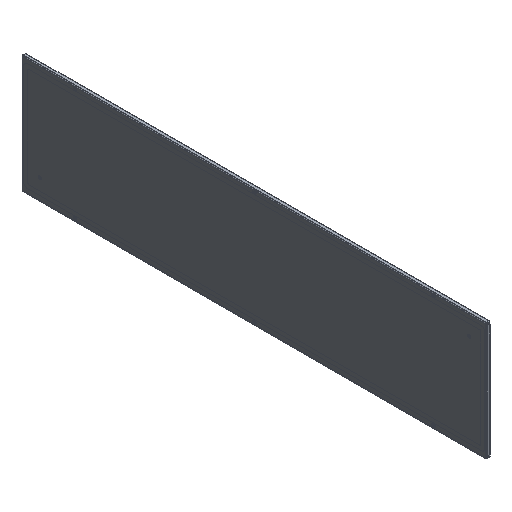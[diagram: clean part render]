
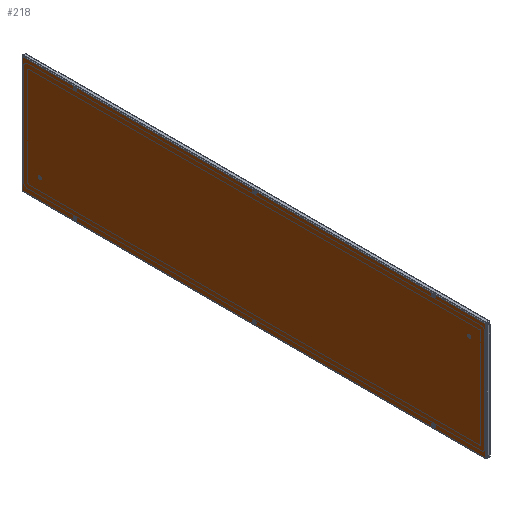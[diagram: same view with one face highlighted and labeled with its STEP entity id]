
A CAD part, isometric view. The second image highlights one B-rep face of the part: STEP entity #218.
In plain terms, the highlighted planar face has unit normal (-1, 0, 0).
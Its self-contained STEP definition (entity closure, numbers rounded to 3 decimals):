
#218=ADVANCED_FACE('',(#1303,#1305,#1307,#1309,#1311,#1313,#1315),#1317,.F.);
#1303=FACE_BOUND('',#1304,.T.);
#1304=EDGE_LOOP('',(#2525,#2526,#2527,#2528));
#1305=FACE_BOUND('',#1306,.T.);
#1306=EDGE_LOOP('',(#2529));
#1307=FACE_BOUND('',#1308,.T.);
#1308=EDGE_LOOP('',(#2530));
#1309=FACE_BOUND('',#1310,.T.);
#1310=EDGE_LOOP('',(#2531));
#1311=FACE_BOUND('',#1312,.T.);
#1312=EDGE_LOOP('',(#2532));
#1313=FACE_BOUND('',#1314,.T.);
#1314=EDGE_LOOP('',(#2533));
#1315=FACE_BOUND('',#1316,.T.);
#1316=EDGE_LOOP('',(#2534));
#1317=PLANE('',#1318);
#1318=AXIS2_PLACEMENT_3D('',#1319,#1320,#1321);
#1319=CARTESIAN_POINT('',(0.,0.,0.));
#1320=DIRECTION('',(1.,0.,0.));
#1321=DIRECTION('',(0.,0.,-1.));
#2525=ORIENTED_EDGE('',*,*,#3029,.T.);
#2526=ORIENTED_EDGE('',*,*,#3030,.T.);
#2527=ORIENTED_EDGE('',*,*,#3031,.T.);
#2528=ORIENTED_EDGE('',*,*,#3032,.T.);
#2529=ORIENTED_EDGE('',*,*,#3014,.F.);
#2530=ORIENTED_EDGE('',*,*,#3016,.F.);
#2531=ORIENTED_EDGE('',*,*,#3018,.F.);
#2532=ORIENTED_EDGE('',*,*,#3020,.F.);
#2533=ORIENTED_EDGE('',*,*,#3022,.F.);
#2534=ORIENTED_EDGE('',*,*,#3024,.F.);
#3014=EDGE_CURVE('',#3287,#3287,#3288,.T.);
#3016=EDGE_CURVE('',#3291,#3291,#3292,.T.);
#3018=EDGE_CURVE('',#3295,#3295,#3296,.T.);
#3020=EDGE_CURVE('',#3299,#3299,#3300,.T.);
#3022=EDGE_CURVE('',#3303,#3303,#3304,.T.);
#3024=EDGE_CURVE('',#3307,#3307,#3308,.T.);
#3029=EDGE_CURVE('',#3317,#3318,#3319,.T.);
#3030=EDGE_CURVE('',#3318,#3320,#3321,.T.);
#3031=EDGE_CURVE('',#3320,#3322,#3323,.T.);
#3032=EDGE_CURVE('',#3322,#3317,#3324,.T.);
#3287=VERTEX_POINT('',#3758);
#3288=CIRCLE('',#3759,3.15);
#3291=VERTEX_POINT('',#3768);
#3292=CIRCLE('',#3769,3.15);
#3295=VERTEX_POINT('',#3778);
#3296=CIRCLE('',#3779,3.15);
#3299=VERTEX_POINT('',#3788);
#3300=CIRCLE('',#3789,3.15);
#3303=VERTEX_POINT('',#3798);
#3304=CIRCLE('',#3799,3.15);
#3307=VERTEX_POINT('',#3808);
#3308=CIRCLE('',#3809,3.15);
#3317=VERTEX_POINT('',#3829);
#3318=VERTEX_POINT('',#3830);
#3319=LINE('',#3831,#3832);
#3320=VERTEX_POINT('',#3834);
#3321=LINE('',#3835,#3836);
#3322=VERTEX_POINT('',#3838);
#3323=LINE('',#3839,#3840);
#3324=LINE('',#3842,#3843);
#3758=CARTESIAN_POINT('',(0.,-688.5,-213.35));
#3759=AXIS2_PLACEMENT_3D('',#3760,#3761,#3762);
#3760=CARTESIAN_POINT('',(0.,-688.5,-216.5));
#3761=DIRECTION('',(-1.,0.,0.));
#3762=DIRECTION('',(0.,0.,-1.));
#3768=CARTESIAN_POINT('',(0.,0.,219.65));
#3769=AXIS2_PLACEMENT_3D('',#3770,#3771,#3772);
#3770=CARTESIAN_POINT('',(0.,0.,216.5));
#3771=DIRECTION('',(-1.,0.,0.));
#3772=DIRECTION('',(0.,0.,-1.));
#3778=CARTESIAN_POINT('',(0.,0.,-213.35));
#3779=AXIS2_PLACEMENT_3D('',#3780,#3781,#3782);
#3780=CARTESIAN_POINT('',(0.,0.,-216.5));
#3781=DIRECTION('',(-1.,0.,0.));
#3782=DIRECTION('',(0.,0.,-1.));
#3788=CARTESIAN_POINT('',(0.,688.5,219.65));
#3789=AXIS2_PLACEMENT_3D('',#3790,#3791,#3792);
#3790=CARTESIAN_POINT('',(0.,688.5,216.5));
#3791=DIRECTION('',(-1.,0.,0.));
#3792=DIRECTION('',(0.,0.,-1.));
#3798=CARTESIAN_POINT('',(0.,-688.5,219.65));
#3799=AXIS2_PLACEMENT_3D('',#3800,#3801,#3802);
#3800=CARTESIAN_POINT('',(0.,-688.5,216.5));
#3801=DIRECTION('',(-1.,0.,0.));
#3802=DIRECTION('',(0.,0.,-1.));
#3808=CARTESIAN_POINT('',(0.,688.5,-213.35));
#3809=AXIS2_PLACEMENT_3D('',#3810,#3811,#3812);
#3810=CARTESIAN_POINT('',(0.,688.5,-216.5));
#3811=DIRECTION('',(-1.,0.,0.));
#3812=DIRECTION('',(0.,0.,-1.));
#3829=CARTESIAN_POINT('',(0.,889.8,-223.3));
#3830=CARTESIAN_POINT('',(0.,-889.8,-223.3));
#3831=CARTESIAN_POINT('',(0.,889.8,-223.3));
#3832=VECTOR('',#3833,1.);
#3833=DIRECTION('',(0.,-1.,0.));
#3834=CARTESIAN_POINT('',(0.,-889.8,223.3));
#3835=CARTESIAN_POINT('',(0.,-889.8,-223.3));
#3836=VECTOR('',#3837,1.);
#3837=DIRECTION('',(0.,0.,1.));
#3838=CARTESIAN_POINT('',(0.,889.8,223.3));
#3839=CARTESIAN_POINT('',(0.,-889.8,223.3));
#3840=VECTOR('',#3841,1.);
#3841=DIRECTION('',(0.,1.,0.));
#3842=CARTESIAN_POINT('',(0.,889.8,223.3));
#3843=VECTOR('',#3844,1.);
#3844=DIRECTION('',(0.,0.,-1.));
